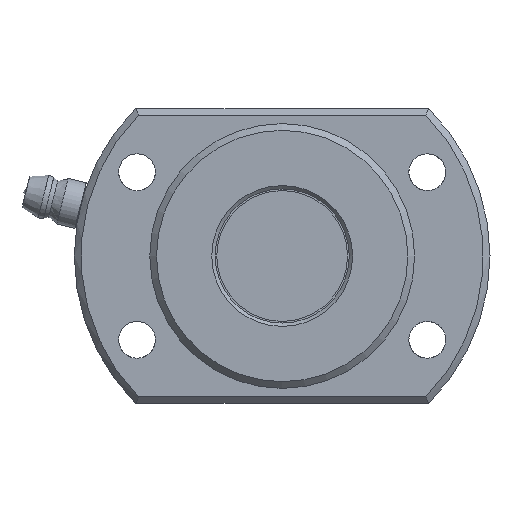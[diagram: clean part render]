
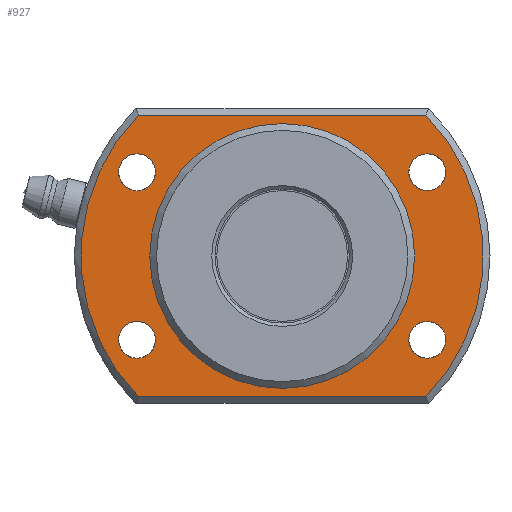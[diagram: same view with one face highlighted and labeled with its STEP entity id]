
A CAD part, left-side view. The second image highlights one B-rep face of the part: STEP entity #927.
In plain terms, the highlighted planar face has unit normal (-1, 0, 0).
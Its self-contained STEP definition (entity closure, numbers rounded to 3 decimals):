
#734=CARTESIAN_POINT('',(776.343,21.424,-21.));
#735=VERTEX_POINT('',#734);
#736=CARTESIAN_POINT('',(776.343,21.424,21.0));
#737=VERTEX_POINT('',#736);
#738=CARTESIAN_POINT('',(776.343,0.0,0.0));
#739=DIRECTION('',(1.0,0.0,0.0));
#740=DIRECTION('',(0.0,1.0,0.0));
#741=AXIS2_PLACEMENT_3D('',#738,#739,#740);
#742=CIRCLE('',#741,30.0);
#743=EDGE_CURVE('',#735,#737,#742,.T.);
#776=CARTESIAN_POINT('',(776.343,-21.424,-21.0));
#777=VERTEX_POINT('',#776);
#785=CARTESIAN_POINT('',(776.343,-21.424,-21.0));
#786=DIRECTION('',(0.0,1.0,0.0));
#787=VECTOR('',#786,42.849);
#788=LINE('',#785,#787);
#789=EDGE_CURVE('',#777,#735,#788,.T.);
#800=CARTESIAN_POINT('',(776.343,-21.424,21.));
#801=VERTEX_POINT('',#800);
#802=CARTESIAN_POINT('',(776.343,0.0,0.0));
#803=DIRECTION('',(1.0,0.0,0.0));
#804=DIRECTION('',(0.0,-1.0,0.0));
#805=AXIS2_PLACEMENT_3D('',#802,#803,#804);
#806=CIRCLE('',#805,30.0);
#807=EDGE_CURVE('',#801,#777,#806,.T.);
#834=CARTESIAN_POINT('',(776.343,21.424,21.0));
#835=DIRECTION('',(0.0,-1.0,0.0));
#836=VECTOR('',#835,42.849);
#837=LINE('',#834,#836);
#838=EDGE_CURVE('',#737,#801,#837,.T.);
#861=CARTESIAN_POINT('',(776.343,25.5,0.0));
#862=DIRECTION('',(-1.0,0.0,0.0));
#863=DIRECTION('',(0.0,0.0,1.0));
#864=AXIS2_PLACEMENT_3D('',#861,#862,#863);
#865=PLANE('',#864);
#866=ORIENTED_EDGE('',*,*,#743,.F.);
#867=ORIENTED_EDGE('',*,*,#789,.F.);
#868=ORIENTED_EDGE('',*,*,#807,.F.);
#869=ORIENTED_EDGE('',*,*,#838,.F.);
#870=EDGE_LOOP('',(#866,#867,#868,#869));
#871=FACE_OUTER_BOUND('',#870,.T.);
#872=CARTESIAN_POINT('',(776.343,19.75,0.0));
#873=VERTEX_POINT('',#872);
#874=CARTESIAN_POINT('',(776.343,0.0,0.0));
#875=DIRECTION('',(1.0,0.0,0.0));
#876=DIRECTION('',(0.0,1.0,0.0));
#877=AXIS2_PLACEMENT_3D('',#874,#875,#876);
#878=CIRCLE('',#877,19.75);
#879=EDGE_CURVE('',#873,#873,#878,.T.);
#880=ORIENTED_EDGE('',*,*,#879,.T.);
#881=EDGE_LOOP('',(#880));
#882=FACE_BOUND('',#881,.T.);
#883=CARTESIAN_POINT('',(776.343,-21.651,15.25));
#884=VERTEX_POINT('',#883);
#885=CARTESIAN_POINT('',(776.343,-21.651,12.5));
#886=DIRECTION('',(1.0,0.0,0.0));
#887=DIRECTION('',(0.0,0.0,1.0));
#888=AXIS2_PLACEMENT_3D('',#885,#886,#887);
#889=CIRCLE('',#888,2.75);
#890=EDGE_CURVE('',#884,#884,#889,.T.);
#891=ORIENTED_EDGE('',*,*,#890,.T.);
#892=EDGE_LOOP('',(#891));
#893=FACE_BOUND('',#892,.T.);
#894=CARTESIAN_POINT('',(776.343,21.651,-9.75));
#895=VERTEX_POINT('',#894);
#896=CARTESIAN_POINT('',(776.343,21.651,-12.5));
#897=DIRECTION('',(1.0,0.0,0.0));
#898=DIRECTION('',(0.0,0.0,1.0));
#899=AXIS2_PLACEMENT_3D('',#896,#897,#898);
#900=CIRCLE('',#899,2.75);
#901=EDGE_CURVE('',#895,#895,#900,.T.);
#902=ORIENTED_EDGE('',*,*,#901,.T.);
#903=EDGE_LOOP('',(#902));
#904=FACE_BOUND('',#903,.T.);
#905=CARTESIAN_POINT('',(776.343,21.651,15.25));
#906=VERTEX_POINT('',#905);
#907=CARTESIAN_POINT('',(776.343,21.651,12.5));
#908=DIRECTION('',(1.0,0.0,0.0));
#909=DIRECTION('',(0.0,0.0,1.0));
#910=AXIS2_PLACEMENT_3D('',#907,#908,#909);
#911=CIRCLE('',#910,2.75);
#912=EDGE_CURVE('',#906,#906,#911,.T.);
#913=ORIENTED_EDGE('',*,*,#912,.T.);
#914=EDGE_LOOP('',(#913));
#915=FACE_BOUND('',#914,.T.);
#916=CARTESIAN_POINT('',(776.343,-21.651,-9.75));
#917=VERTEX_POINT('',#916);
#918=CARTESIAN_POINT('',(776.343,-21.651,-12.5));
#919=DIRECTION('',(1.0,0.0,0.0));
#920=DIRECTION('',(0.0,0.0,1.0));
#921=AXIS2_PLACEMENT_3D('',#918,#919,#920);
#922=CIRCLE('',#921,2.75);
#923=EDGE_CURVE('',#917,#917,#922,.T.);
#924=ORIENTED_EDGE('',*,*,#923,.T.);
#925=EDGE_LOOP('',(#924));
#926=FACE_BOUND('',#925,.T.);
#927=ADVANCED_FACE('',(#871,#882,#893,#904,#915,#926),#865,.T.);
